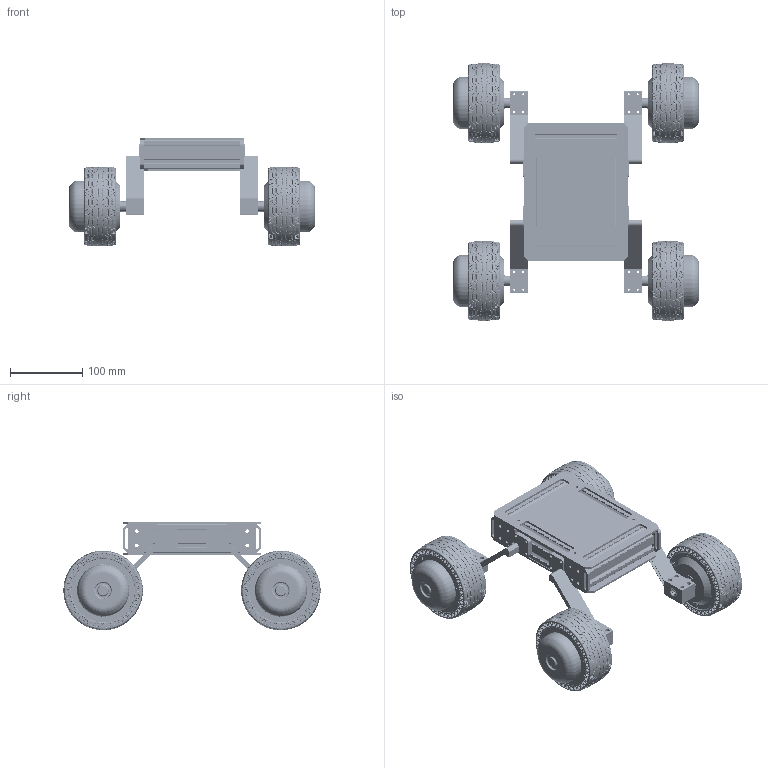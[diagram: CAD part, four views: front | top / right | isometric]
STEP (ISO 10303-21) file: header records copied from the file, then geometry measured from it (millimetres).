
FILE_DESCRIPTION(/* description */ (''),/* implementation_level */ '2;1');
FILE_NAME(/* name */ 'DDSM350 4WD-A.step',/* time_stamp */ '2026-07-14T19:34:21+08:00',/* author */ (''),/* organization */ (''),/* preprocessor_version */ 'ST-DEVELOPER v20.1',/* originating_system */ 'Autodesk Translation Framework v15.8.0.0',/* authorisation */ '');
FILE_SCHEMA (('AUTOMOTIVE_DESIGN { 1 0 10303 214 3 1 1 }'));
Products named in the file (28): 4WD-A; 2040 Extrusion v1; 2040 Extrusion v1(镜像); 盖板; 零部件25; 2040 Extrusion v1 (1); 侧支持; 固定架装配体; cnc连接镜像; 固定架装配体_1; IWS 固定; cnc连接镜像_1; IWS 固定_1; 无标题; 4.5´ç3DÍ¼-°²ÆÕË¹; ÉÏ¸Ç×Ü³É£¨Ô
ìÐÍ£©; ×ª×Ó£¨ÔìÐÍ£
©2; 0354-00011 ×ª×ÓÍâ¿Ç n
ew; ¶¨×Ó(ÔìÐÍ£©; 4.5´çÖáÐÄ; 4.5´çÏÂ¸Ç; 0044-01166 ÉÏ¸Ç new3; ÓÍ·â; 0004-02191 ÏÂ¸Ç8 Ìú¿Ç; ÃÜ·âÈ¦2; 110x45-B_110mm; ÃÜ·âÈ¦; cross recessed countersunk head screws gb1 1(GB_CROSS_SCREWS_TYPE4 M3
X12-10.35  H type-N)
Assembly tree (51 placements, depth 4):
  4WD-A
    2040 Extrusion v1
    2040 Extrusion v1 (1)  x2
    2040 Extrusion v1(镜像)
    侧支持  x4
    盖板
    零部件25
    4.5´ç3DÍ¼-°²ÆÕË¹  x4
      ÉÏ¸Ç×Ü³É£¨Ô
ìÐÍ£©
        ÃÜ·âÈ¦
      ×ª×Ó£¨ÔìÐÍ£
©2
        0354-00011 ×ª×ÓÍâ¿Ç n
ew
      ¶¨×Ó(ÔìÐÍ£©
        4.5´çÖáÐÄ
      cross recessed countersunk head screws gb1 1(GB_CROSS_SCREWS_TYPE4 M3
X12-10.35  H type-N)
      4.5´çÏÂ¸Ç
      0044-01166 ÉÏ¸Ç new3
      ÓÍ·â
      0004-02191 ÏÂ¸Ç8 Ìú¿Ç
      ÃÜ·âÈ¦2
      110x45-B_110mm
      ÃÜ·âÈ¦
    固定架装配体
      无标题
      IWS 固定
    cnc连接镜像
      IWS 固定_1
      无标题
    固定架装配体_1
      无标题
      IWS 固定
    cnc连接镜像_1
      IWS 固定_1
      无标题
Bounding box: 341.01 x 355.87 x 149.94 mm (x, y, z)
Volume: 1420196.5 mm3; surface area: 837237.2 mm2
Topology: 110 solids, 110 shells, 35908 faces, 83528 edges, 48172 vertices
Faces by surface type: bspline 28684, plane 4020, cylinder 2224, cone 796, torus 184
Full cylindrical faces by diameter (mm): 2.5 x24, 3 x80, 3.4 x60, 4 x28, 5 x16, 5.2 x48, 6 x16, 8 x20, 9.3 x4, 12.6 x4, 14 x4, 15 x12, 21 x4, 22.6 x4, 24 x8, 25 x4, 28 x4, 32 x4, 68 x4, 68.5 x12, 69.6 x8, 70 x12, 71.7 x8, 72 x12, 73.3 x12, 83.3 x8, 84 x8, 88 x8
Entity records: 968631 total; most frequent: CARTESIAN_POINT 794133, ORIENTED_EDGE 42264, DIRECTION 25246, EDGE_CURVE 21132, VERTEX_POINT 12361, AXIS2_PLACEMENT_3D 10797, EDGE_LOOP 9577, FACE_OUTER_BOUND 9116
